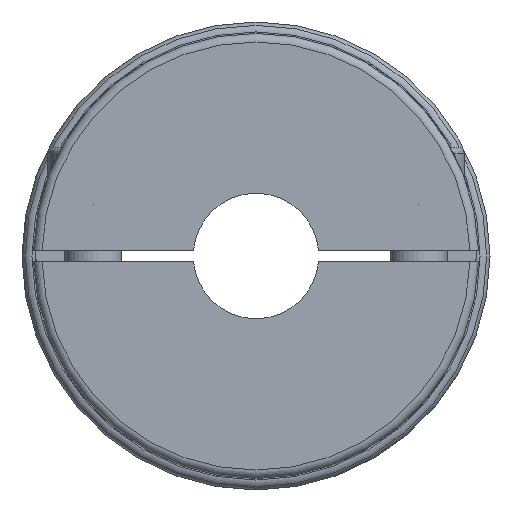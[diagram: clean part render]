
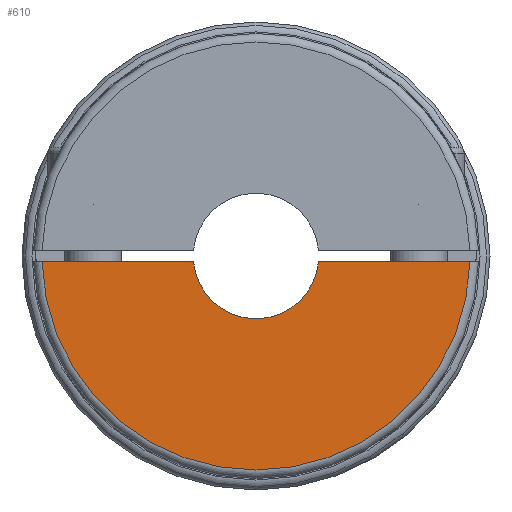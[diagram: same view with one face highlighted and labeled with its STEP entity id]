
A CAD part, left-side view. The second image highlights one B-rep face of the part: STEP entity #610.
In plain terms, the highlighted planar face has unit normal (-1, 0, 0).
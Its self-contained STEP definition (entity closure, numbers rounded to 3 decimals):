
#610 = ADVANCED_FACE( '', ( #1403 ), #1404, .T. );
#1403 = FACE_OUTER_BOUND( '', #2314, .T. );
#1404 = PLANE( '', #2315 );
#2314 = EDGE_LOOP( '', ( #3810, #3811, #3812, #3813 ) );
#2315 = AXIS2_PLACEMENT_3D( '', #3814, #3815, #3816 );
#3810 = ORIENTED_EDGE( '', *, *, #4796, .T. );
#3811 = ORIENTED_EDGE( '', *, *, #4874, .T. );
#3812 = ORIENTED_EDGE( '', *, *, #4858, .T. );
#3813 = ORIENTED_EDGE( '', *, *, #4600, .T. );
#3814 = CARTESIAN_POINT( '', ( -0.5, 0., 7.5 ) );
#3815 = DIRECTION( '', ( -1., 0., 0. ) );
#3816 = DIRECTION( '', ( 0., 0., 1. ) );
#4600 = EDGE_CURVE( '', #5406, #5404, #5407, .T. );
#4796 = EDGE_CURVE( '', #5404, #5687, #5689, .T. );
#4858 = EDGE_CURVE( '', #5768, #5406, #5769, .T. );
#4874 = EDGE_CURVE( '', #5687, #5768, #5788, .T. );
#5404 = VERTEX_POINT( '', #6817 );
#5406 = VERTEX_POINT( '', #6832 );
#5407 = CIRCLE( '', #6833, 37.5 );
#5687 = VERTEX_POINT( '', #7338 );
#5689 = LINE( '', #7341, #7342 );
#5768 = VERTEX_POINT( '', #7616 );
#5769 = LINE( '', #7617, #7618 );
#5788 = CIRCLE( '', #7640, 11. );
#6817 = CARTESIAN_POINT( '', ( -0.5, -37.487, -1. ) );
#6832 = CARTESIAN_POINT( '', ( -0.5, 37.487, -1. ) );
#6833 = AXIS2_PLACEMENT_3D( '', #8193, #8194, #8195 );
#7338 = CARTESIAN_POINT( '', ( -0.5, -10.954, -1. ) );
#7341 = CARTESIAN_POINT( '', ( -0.5, 0., -1. ) );
#7342 = VECTOR( '', #8464, 1000. );
#7616 = CARTESIAN_POINT( '', ( -0.5, 10.954, -1. ) );
#7617 = CARTESIAN_POINT( '', ( -0.5, 0., -1. ) );
#7618 = VECTOR( '', #8529, 1000. );
#7640 = AXIS2_PLACEMENT_3D( '', #8548, #8549, #8550 );
#8193 = CARTESIAN_POINT( '', ( -0.5, 0., 0. ) );
#8194 = DIRECTION( '', ( -1., 0., 0. ) );
#8195 = DIRECTION( '', ( 0., 0., 1. ) );
#8464 = DIRECTION( '', ( 0., 1., 0. ) );
#8529 = DIRECTION( '', ( 0., 1., 0. ) );
#8548 = CARTESIAN_POINT( '', ( -0.5, 0., 0. ) );
#8549 = DIRECTION( '', ( 1., 0., 0. ) );
#8550 = DIRECTION( '', ( 0., -1., 0. ) );
